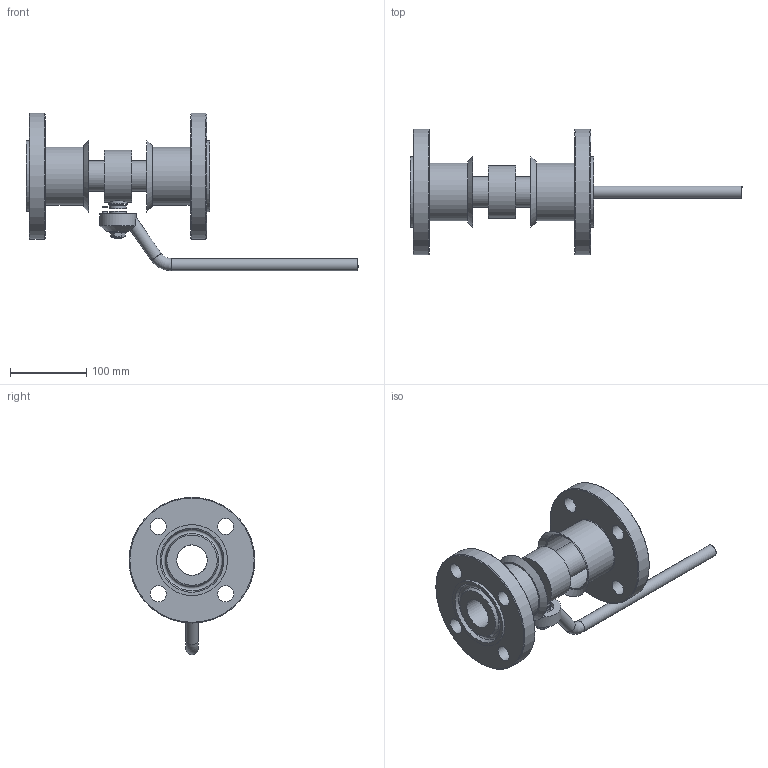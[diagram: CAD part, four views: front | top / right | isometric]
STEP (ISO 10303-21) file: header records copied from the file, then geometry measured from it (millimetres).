
FILE_DESCRIPTION(('STEP AP203'), '1');
FILE_NAME('ZARDP 040.063.27.P.stp', '2013-12-06T06:55:38', ('User'), ('Computer'), 'ASCON STEP Converter 1.3', 'Kompas 3D', '');
FILE_SCHEMA(('CONFIG_CONTROL_DESIGN','SUPPORT_RESOURCE_SCHEMA'));
Length unit declared in the file: millimetre
Products named in the file (1): 100
Bounding box: 435.51 x 165 x 206.5 mm (x, y, z)
Surface area: 223971.7 mm2
Topology: 6 solids, 7 shells, 174 faces, 379 edges, 238 vertices
Faces by surface type: plane 79, cylinder 58, cone 25, torus 12
Full cylindrical faces by diameter (mm): 6 x2, 10 x2, 16 x3, 16.1 x1, 21 x8, 21.8 x1, 22 x2, 24.3 x1, 24.5 x1, 40 x2, 48 x1, 68.4 x1, 76 x2, 93 x2, 94 x1, 165 x2
Entity records: 6487 total; most frequent: CARTESIAN_POINT 2490, DIRECTION 853, ORIENTED_EDGE 756, EDGE_CURVE 379, AXIS2_PLACEMENT_3D 342, VERTEX_POINT 238, EDGE_LOOP 218, ADVANCED_FACE 174
